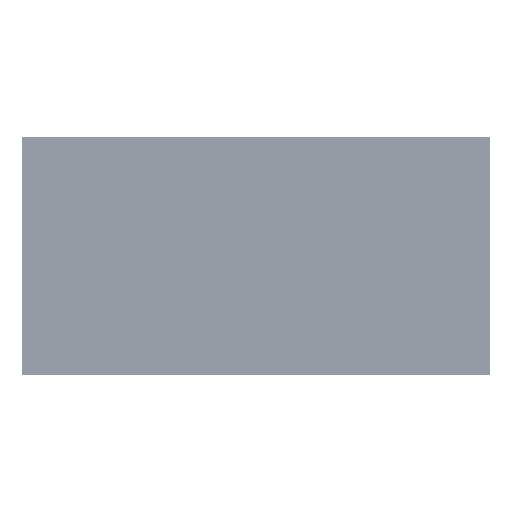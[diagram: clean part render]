
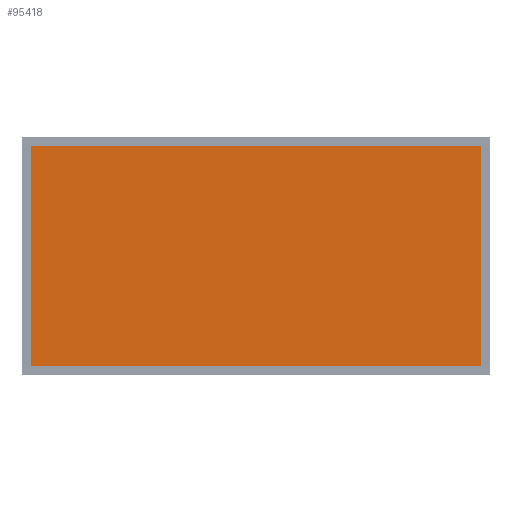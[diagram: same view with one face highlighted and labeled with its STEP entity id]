
A CAD part, front view. The second image highlights one B-rep face of the part: STEP entity #95418.
In plain terms, the highlighted planar face has unit normal (0, -1, 0) as drawn and (-1, 0, 0) by its records, which use the part's own axes.
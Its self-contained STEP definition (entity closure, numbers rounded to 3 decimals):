
#16321=FACE_OUTER_BOUND('',#21437,.T.);
#21437=EDGE_LOOP('',(#66229,#66230,#66231,#66232));
#30429=LINE('',#141061,#36816);
#30432=LINE('',#141066,#36819);
#30433=LINE('',#141068,#36820);
#30434=LINE('',#141069,#36821);
#36816=VECTOR('',#112653,10.);
#36819=VECTOR('',#112658,10.);
#36820=VECTOR('',#112659,10.);
#36821=VECTOR('',#112660,10.);
#43147=VERTEX_POINT('',#141059);
#43148=VERTEX_POINT('',#141060);
#43149=VERTEX_POINT('',#141065);
#43150=VERTEX_POINT('',#141067);
#52229=EDGE_CURVE('',#43147,#43148,#30429,.T.);
#52232=EDGE_CURVE('',#43149,#43147,#30432,.T.);
#52233=EDGE_CURVE('',#43150,#43149,#30433,.T.);
#52234=EDGE_CURVE('',#43148,#43150,#30434,.T.);
#66229=ORIENTED_EDGE('',*,*,#52229,.F.);
#66230=ORIENTED_EDGE('',*,*,#52232,.F.);
#66231=ORIENTED_EDGE('',*,*,#52233,.F.);
#66232=ORIENTED_EDGE('',*,*,#52234,.F.);
#93717=PLANE('',#101381);
#95418=ADVANCED_FACE('',(#16321),#93717,.F.);
#101381=AXIS2_PLACEMENT_3D('',#141064,#112656,#112657);
#112653=DIRECTION('',(0.,-1.,0.));
#112656=DIRECTION('center_axis',(1.,0.,0.));
#112657=DIRECTION('ref_axis',(0.,0.,-1.));
#112658=DIRECTION('',(0.,0.,1.));
#112659=DIRECTION('',(0.,1.,0.));
#112660=DIRECTION('',(0.,0.,-1.));
#141059=CARTESIAN_POINT('',(-939.693,1010.,500.));
#141060=CARTESIAN_POINT('',(-939.693,-10.,500.));
#141061=CARTESIAN_POINT('',(-939.693,1010.,500.));
#141064=CARTESIAN_POINT('Origin',(-939.693,500.,250.));
#141065=CARTESIAN_POINT('',(-939.693,1010.,0.));
#141066=CARTESIAN_POINT('',(-939.693,1010.,0.));
#141067=CARTESIAN_POINT('',(-939.693,-10.,0.));
#141068=CARTESIAN_POINT('',(-939.693,-10.,0.));
#141069=CARTESIAN_POINT('',(-939.693,-10.,500.));
